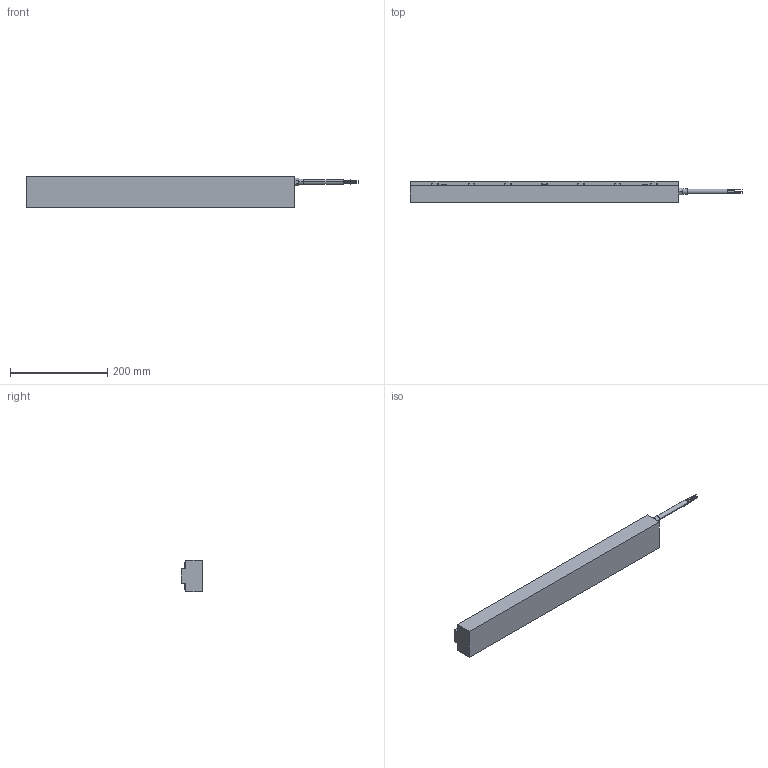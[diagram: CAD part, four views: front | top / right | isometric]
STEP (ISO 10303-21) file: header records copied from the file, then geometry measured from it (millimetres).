
FILE_DESCRIPTION((''),'2;1');
FILE_NAME('IC33_30','2010-03-09T',('brad.winesett'),('Kollmorgen'),'PRO/ENGINEER BY PARAMETRIC TECHNOLOGY CORPORATION, 2006510','PRO/ENGINEER BY PARAMETRIC TECHNOLOGY CORPORATION, 2006510','');
FILE_SCHEMA(('CONFIG_CONTROL_DESIGN'));
Length unit declared in the file: millimetre
Products named in the file (1): IC33_30
Bounding box: 682.2 x 43.3 x 65 mm (x, y, z)
Volume: 1399871.9 mm3; surface area: 141108.7 mm2
Topology: 1 solids, 15 shells, 312 faces, 774 edges, 502 vertices
Faces by surface type: plane 180, cylinder 104, cone 28
Entity records: 9103 total; most frequent: DIRECTION 1608, CARTESIAN_POINT 1561, ORIENTED_EDGE 1436, EDGE_CURVE 746, AXIS2_PLACEMENT_3D 549, VECTOR 510, LINE 510, VERTEX_POINT 502
